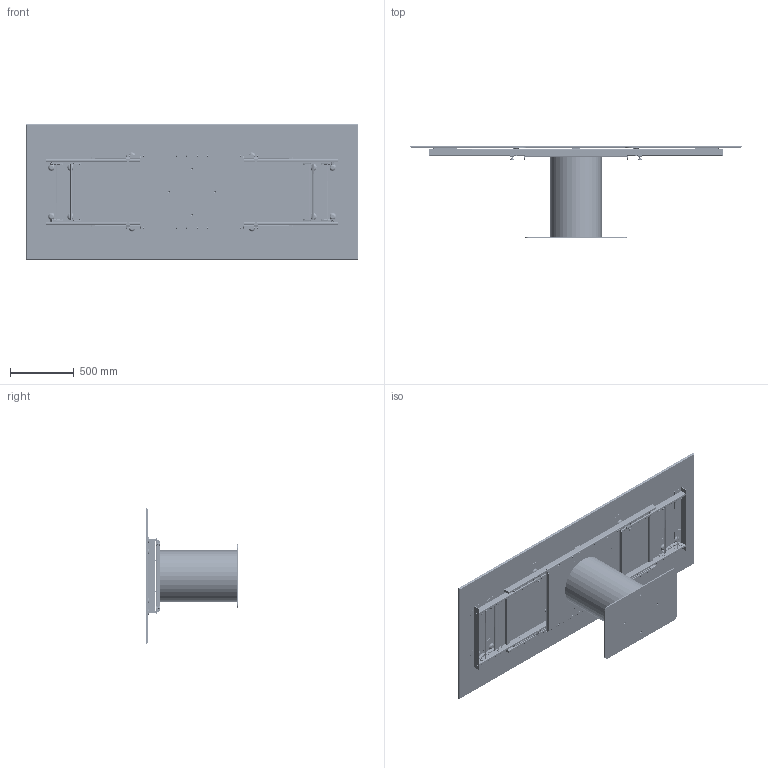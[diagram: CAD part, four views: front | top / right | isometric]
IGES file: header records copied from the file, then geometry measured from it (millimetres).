
Start section: SolidWorks IGES file using analytic representation for surfaces
Global section: file name: Y:\eforma\TECNICO\SOLIDWORKS\E-FORMA\1-TAVOLI\CILINDRO ALLUNGABILE\02 parts\CA31C_OPEN.IGS; native system: SolidWorks 2022; preprocessor: SolidWorks 2022; author: eforma.tech; date: 240808.120347; units: millimetre
Bounding box: 2600 x 724.5 x 1060 mm (x, y, z)
Volume: 48650965.6 mm3; surface area: 18488029.2 mm2
Topology: 162 solids, 162 shells, 8102 faces, 58252 edges, 54548 vertices
Faces by surface type: revolution 4360, bspline 2114, plane 1628
